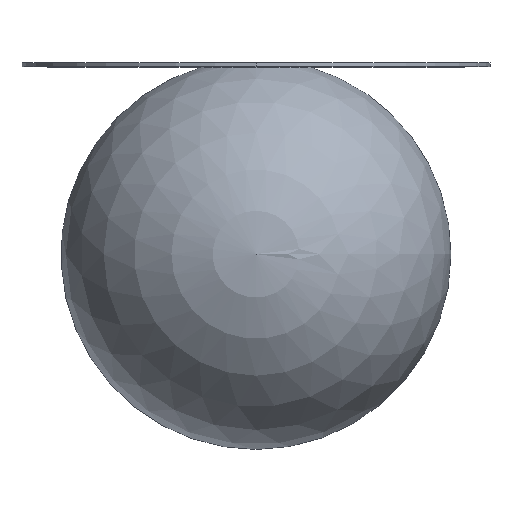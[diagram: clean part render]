
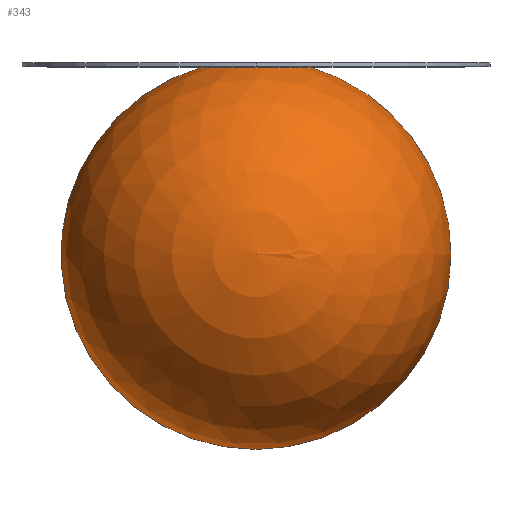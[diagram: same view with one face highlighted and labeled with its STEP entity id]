
A CAD part, top view. The second image highlights one B-rep face of the part: STEP entity #343.
In plain terms, the highlighted spherical face has radius 125 mm.
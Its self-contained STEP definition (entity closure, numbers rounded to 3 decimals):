
#25 = ORIENTED_EDGE ( 'NONE', *, *, #256, .F. ) ;
#36 = DIRECTION ( 'NONE',  ( 0., 0., -1. ) ) ;
#45 = SPHERICAL_SURFACE ( 'NONE', #1080, 125. ) ;
#52 = CIRCLE ( 'NONE', #1036, 125. ) ;
#109 = VERTEX_POINT ( 'NONE', #1201 ) ;
#256 = EDGE_CURVE ( 'NONE', #367, #630, #1355, .T. ) ;
#257 = DIRECTION ( 'NONE',  ( -1., 0., 0. ) ) ;
#343 = ADVANCED_FACE ( 'NONE', ( #1110 ), #45, .T. ) ;
#357 = CARTESIAN_POINT ( 'NONE',  ( 35., 120., 0. ) ) ;
#367 = VERTEX_POINT ( 'NONE', #1494 ) ;
#442 = DIRECTION ( 'NONE',  ( 0., 0., -1. ) ) ;
#505 = ORIENTED_EDGE ( 'NONE', *, *, #844, .F. ) ;
#506 = AXIS2_PLACEMENT_3D ( 'NONE', #1533, #442, #778 ) ;
#607 = CIRCLE ( 'NONE', #506, 125. ) ;
#630 = VERTEX_POINT ( 'NONE', #357 ) ;
#778 = DIRECTION ( 'NONE',  ( -1., 0., 0. ) ) ;
#844 = EDGE_CURVE ( 'NONE', #109, #367, #607, .T. ) ;
#896 = EDGE_LOOP ( 'NONE', ( #505, #1101, #25 ) ) ;
#899 = CARTESIAN_POINT ( 'NONE',  ( 0., 0., 0. ) ) ;
#1036 = AXIS2_PLACEMENT_3D ( 'NONE', #899, #1137, #1266 ) ;
#1080 = AXIS2_PLACEMENT_3D ( 'NONE', #1486, #36, #1477 ) ;
#1098 = DIRECTION ( 'NONE',  ( 0., 1., 0. ) ) ;
#1101 = ORIENTED_EDGE ( 'NONE', *, *, #1517, .T. ) ;
#1110 = FACE_OUTER_BOUND ( 'NONE', #896, .T. ) ;
#1137 = DIRECTION ( 'NONE',  ( 0., 0., 1. ) ) ;
#1201 = CARTESIAN_POINT ( 'NONE',  ( 0., -125., 0. ) ) ;
#1266 = DIRECTION ( 'NONE',  ( 1., 0., 0. ) ) ;
#1355 = CIRCLE ( 'NONE', #1384, 35. ) ;
#1377 = CARTESIAN_POINT ( 'NONE',  ( 0., 120., 0. ) ) ;
#1384 = AXIS2_PLACEMENT_3D ( 'NONE', #1377, #1098, #257 ) ;
#1477 = DIRECTION ( 'NONE',  ( 1., 0., 0. ) ) ;
#1486 = CARTESIAN_POINT ( 'NONE',  ( 0., 0., 0. ) ) ;
#1494 = CARTESIAN_POINT ( 'NONE',  ( -35., 120., 0. ) ) ;
#1517 = EDGE_CURVE ( 'NONE', #109, #630, #52, .T. ) ;
#1533 = CARTESIAN_POINT ( 'NONE',  ( 0., 0., 0. ) ) ;
